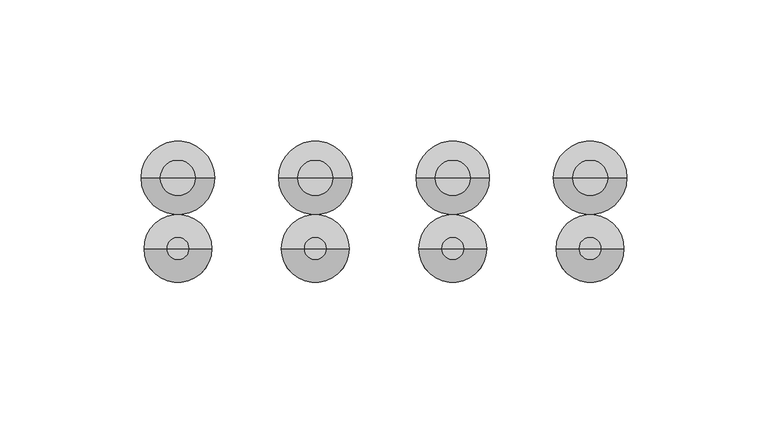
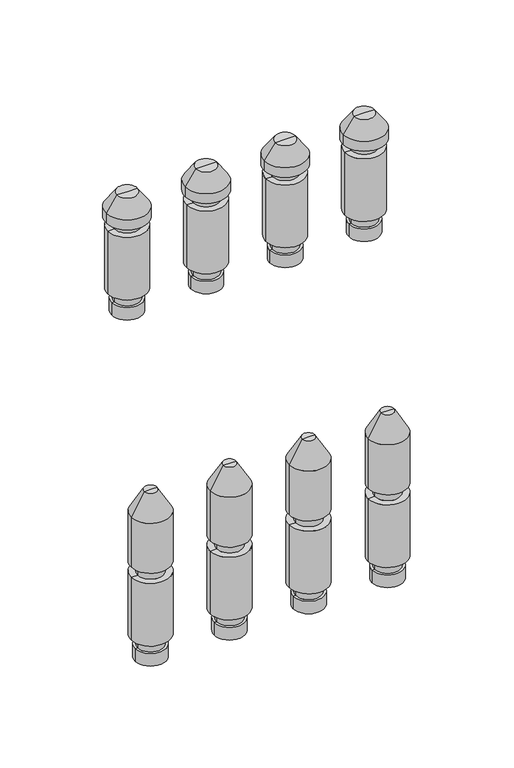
"""IFC4 building model written with IfcOpenShell, lengths in millimetres: valve geometry, PL AT_Manifold_FT-EV : 07 circuits."""

from ifc_helpers import new_model, si_unit, frame, origin, place, context, project, spatial, polyline, circle_curve, source, transform, mapped, element, save
from ifc_brep_helpers import plane_surface, cylinder_surface, revolved_surface, advanced_brep


def valve_ee085975(model_context):
    return source(origin(), model_context, "Body", "AdvancedBrep", [
        advanced_brep(
        [(275.8333333, 0.0, -35.11267), (294.8333333, 0.0, -35.11267), (285.3333333, 0.0, -35.11267), (275.8333333, 0.0, -27.0369646), (294.8333333, 0.0, -27.0369646), (277.3333333, 0.0, -27.0369646), (293.3333333, 0.0, -27.0369646), (277.3333333, 0.0, -20.330253), (293.3333333, 0.0, -20.330253), (273.3333333, 0.0, -20.330253), (297.3333333, 0.0, -20.330253), (273.3333333, 0.0, 20.330253), (297.3333333, 0.0, 20.330253), (277.3333333, 0.0, 20.330253), (293.3333333, 0.0, 20.330253), (277.3333333, 0.0, 27.0474786), (293.3333333, 0.0, 27.0474786), (273.3333333, 0.0, 27.0474786), (297.3333333, 0.0, 27.0474786), (273.3333333, 0.0, 59.4084325), (297.3333333, 0.0, 59.4084325), (281.3333333, 0.0, 73.264839), (289.3333333, 0.0, 73.264839), (285.3333333, 0.0, 73.264839)],
        [
            (0, 1, circle_curve(frame((285.3333333, 0.0, -35.11267), z_axis=(0.0, 0.0, -1.0), x_axis=(1.0, 0.0, 0.0)), 9.5)),
            (1, 2),
            (2, 0),
            (1, 0, circle_curve(frame((285.3333333, 0.0, -35.11267), z_axis=(0.0, 0.0, -1.0), x_axis=(1.0, 0.0, 0.0)), 9.5)),
            (3, 4, circle_curve(frame((285.3333333, 0.0, -27.0369646), z_axis=(0.0, 0.0, -1.0), x_axis=(1.0, 0.0, 0.0)), 9.5)),
            (4, 1),
            (0, 3),
            (4, 3, circle_curve(frame((285.3333333, 0.0, -27.0369646), z_axis=(0.0, 0.0, -1.0), x_axis=(1.0, 0.0, 0.0)), 9.5)),
            (5, 6, circle_curve(frame((285.3333333, 0.0, -27.0369646), z_axis=(0.0, 0.0, -1.0), x_axis=(1.0, 0.0, 0.0)), 8.0)),
            (6, 4),
            (3, 5),
            (6, 5, circle_curve(frame((285.3333333, 0.0, -27.0369646), z_axis=(0.0, 0.0, -1.0), x_axis=(1.0, 0.0, 0.0)), 8.0)),
            (7, 8, circle_curve(frame((285.3333333, 0.0, -20.330253), z_axis=(0.0, 0.0, -1.0), x_axis=(1.0, 0.0, 0.0)), 8.0)),
            (8, 6),
            (5, 7),
            (8, 7, circle_curve(frame((285.3333333, 0.0, -20.330253), z_axis=(0.0, 0.0, -1.0), x_axis=(1.0, 0.0, 0.0)), 8.0)),
            (9, 10, circle_curve(frame((285.3333333, 0.0, -20.330253), z_axis=(0.0, 0.0, -1.0), x_axis=(1.0, 0.0, 0.0)), 12.0)),
            (10, 8),
            (7, 9),
            (10, 9, circle_curve(frame((285.3333333, 0.0, -20.330253), z_axis=(0.0, 0.0, -1.0), x_axis=(1.0, 0.0, 0.0)), 12.0)),
            (11, 12, circle_curve(frame((285.3333333, 0.0, 20.330253), z_axis=(0.0, 0.0, -1.0), x_axis=(1.0, 0.0, 0.0)), 12.0)),
            (12, 10),
            (9, 11),
            (12, 11, circle_curve(frame((285.3333333, 0.0, 20.330253), z_axis=(0.0, 0.0, -1.0), x_axis=(1.0, 0.0, 0.0)), 12.0)),
            (13, 14, circle_curve(frame((285.3333333, 0.0, 20.330253), z_axis=(0.0, 0.0, -1.0), x_axis=(1.0, 0.0, 0.0)), 8.0)),
            (14, 12),
            (11, 13),
            (14, 13, circle_curve(frame((285.3333333, 0.0, 20.330253), z_axis=(0.0, 0.0, -1.0), x_axis=(1.0, 0.0, 0.0)), 8.0)),
            (15, 16, circle_curve(frame((285.3333333, 0.0, 27.0474786), z_axis=(0.0, 0.0, -1.0), x_axis=(1.0, 0.0, 0.0)), 8.0)),
            (16, 14),
            (13, 15),
            (16, 15, circle_curve(frame((285.3333333, 0.0, 27.0474786), z_axis=(0.0, 0.0, -1.0), x_axis=(1.0, 0.0, 0.0)), 8.0)),
            (17, 18, circle_curve(frame((285.3333333, 0.0, 27.0474786), z_axis=(0.0, 0.0, -1.0), x_axis=(1.0, 0.0, 0.0)), 12.0)),
            (18, 16),
            (15, 17),
            (18, 17, circle_curve(frame((285.3333333, 0.0, 27.0474786), z_axis=(0.0, 0.0, -1.0), x_axis=(1.0, 0.0, 0.0)), 12.0)),
            (19, 20, circle_curve(frame((285.3333333, 0.0, 59.4084325), z_axis=(0.0, 0.0, -1.0), x_axis=(1.0, 0.0, 0.0)), 12.0)),
            (20, 18),
            (17, 19),
            (20, 19, circle_curve(frame((285.3333333, 0.0, 59.4084325), z_axis=(0.0, 0.0, -1.0), x_axis=(1.0, 0.0, 0.0)), 12.0)),
            (21, 22, circle_curve(frame((285.3333333, 0.0, 73.264839), z_axis=(0.0, 0.0, -1.0), x_axis=(1.0, 0.0, 0.0)), 4.0)),
            (22, 20),
            (19, 21),
            (22, 21, circle_curve(frame((285.3333333, 0.0, 73.264839), z_axis=(0.0, 0.0, -1.0), x_axis=(1.0, 0.0, 0.0)), 4.0)),
            (23, 22),
            (21, 23),
        ],
        [
            plane_surface(frame((285.3333333, 0.0, -35.11267), z_axis=(0.0, 0.0, -1.0), x_axis=(1.0, 0.0, 0.0))),
            cylinder_surface(frame((285.3333333, 0.0, 58.264839), z_axis=(0.0, 0.0, 1.0), x_axis=(1.0, 0.0, 0.0)), 9.5),
            plane_surface(frame((285.3333333, 0.0, -27.0369646), z_axis=(0.0, 0.0, 1.0), x_axis=(1.0, 0.0, 0.0))),
            cylinder_surface(frame((285.3333333, 0.0, 58.264839), z_axis=(0.0, 0.0, 1.0), x_axis=(1.0, 0.0, 0.0)), 8.0),
            plane_surface(frame((285.3333333, 0.0, -20.330253), z_axis=(0.0, 0.0, -1.0), x_axis=(1.0, 0.0, 0.0))),
            cylinder_surface(frame((285.3333333, 0.0, 58.264839), z_axis=(0.0, 0.0, 1.0), x_axis=(1.0, 0.0, 0.0)), 12.0),
            plane_surface(frame((285.3333333, 0.0, 20.330253), z_axis=(0.0, 0.0, 1.0), x_axis=(1.0, 0.0, 0.0))),
            plane_surface(frame((285.3333333, 0.0, 27.0474786), z_axis=(0.0, 0.0, -1.0), x_axis=(1.0, 0.0, 0.0))),
            revolved_surface(polyline([(297.3333333, 0.0, 59.4084325), (289.3333333, 0.0, 73.264839)]), (285.3333333, 0.0, 58.264839), (0.0, 0.0, 1.0)),
            plane_surface(frame((285.3333333, 0.0, 73.264839), z_axis=(0.0, 0.0, 1.0), x_axis=(1.0, 0.0, 0.0))),
        ],
        [
            (0, [[1, 2, 3]]),
            (0, [[4, -3, -2]]),
            (1, [[5, 6, -1, 7]]),
            (1, [[8, -7, -4, -6]]),
            (2, [[9, 10, -5, 11]]),
            (2, [[12, -11, -8, -10]]),
            (3, [[13, 14, -9, 15]]),
            (3, [[16, -15, -12, -14]]),
            (4, [[17, 18, -13, 19]]),
            (4, [[20, -19, -16, -18]]),
            (5, [[21, 22, -17, 23]]),
            (5, [[24, -23, -20, -22]]),
            (6, [[25, 26, -21, 27]]),
            (6, [[28, -27, -24, -26]]),
            (3, [[29, 30, -25, 31]]),
            (3, [[32, -31, -28, -30]]),
            (7, [[33, 34, -29, 35]]),
            (7, [[36, -35, -32, -34]]),
            (5, [[37, 38, -33, 39]]),
            (5, [[40, -39, -36, -38]]),
            (8, [[41, 42, -37, 43]]),
            (8, [[44, -43, -40, -42]]),
            (9, [[45, -41, 46]]),
            (9, [[-46, -44, -45]]),
        ],
    ),
        advanced_brep(
        [(227.1666667, 0.0, -35.11267), (246.1666667, 0.0, -35.11267), (236.6666667, 0.0, -35.11267), (227.1666667, 0.0, -27.0369646), (246.1666667, 0.0, -27.0369646), (228.6666667, 0.0, -27.0369646), (244.6666667, 0.0, -27.0369646), (228.6666667, 0.0, -20.330253), (244.6666667, 0.0, -20.330253), (224.6666667, 0.0, -20.330253), (248.6666667, 0.0, -20.330253), (224.6666667, 0.0, 20.330253), (248.6666667, 0.0, 20.330253), (228.6666667, 0.0, 20.330253), (244.6666667, 0.0, 20.330253), (228.6666667, 0.0, 27.0474786), (244.6666667, 0.0, 27.0474786), (224.6666667, 0.0, 27.0474786), (248.6666667, 0.0, 27.0474786), (224.6666667, 0.0, 59.4084325), (248.6666667, 0.0, 59.4084325), (232.6666667, 0.0, 73.264839), (240.6666667, 0.0, 73.264839), (236.6666667, 0.0, 73.264839)],
        [
            (0, 1, circle_curve(frame((236.6666667, 0.0, -35.11267), z_axis=(0.0, 0.0, -1.0), x_axis=(1.0, 0.0, 0.0)), 9.5)),
            (1, 2),
            (2, 0),
            (1, 0, circle_curve(frame((236.6666667, 0.0, -35.11267), z_axis=(0.0, 0.0, -1.0), x_axis=(1.0, 0.0, 0.0)), 9.5)),
            (3, 4, circle_curve(frame((236.6666667, 0.0, -27.0369646), z_axis=(0.0, 0.0, -1.0), x_axis=(1.0, 0.0, 0.0)), 9.5)),
            (4, 1),
            (0, 3),
            (4, 3, circle_curve(frame((236.6666667, 0.0, -27.0369646), z_axis=(0.0, 0.0, -1.0), x_axis=(1.0, 0.0, 0.0)), 9.5)),
            (5, 6, circle_curve(frame((236.6666667, 0.0, -27.0369646), z_axis=(0.0, 0.0, -1.0), x_axis=(1.0, 0.0, 0.0)), 8.0)),
            (6, 4),
            (3, 5),
            (6, 5, circle_curve(frame((236.6666667, 0.0, -27.0369646), z_axis=(0.0, 0.0, -1.0), x_axis=(1.0, 0.0, 0.0)), 8.0)),
            (7, 8, circle_curve(frame((236.6666667, 0.0, -20.330253), z_axis=(0.0, 0.0, -1.0), x_axis=(1.0, 0.0, 0.0)), 8.0)),
            (8, 6),
            (5, 7),
            (8, 7, circle_curve(frame((236.6666667, 0.0, -20.330253), z_axis=(0.0, 0.0, -1.0), x_axis=(1.0, 0.0, 0.0)), 8.0)),
            (9, 10, circle_curve(frame((236.6666667, 0.0, -20.330253), z_axis=(0.0, 0.0, -1.0), x_axis=(1.0, 0.0, 0.0)), 12.0)),
            (10, 8),
            (7, 9),
            (10, 9, circle_curve(frame((236.6666667, 0.0, -20.330253), z_axis=(0.0, 0.0, -1.0), x_axis=(1.0, 0.0, 0.0)), 12.0)),
            (11, 12, circle_curve(frame((236.6666667, 0.0, 20.330253), z_axis=(0.0, 0.0, -1.0), x_axis=(1.0, 0.0, 0.0)), 12.0)),
            (12, 10),
            (9, 11),
            (12, 11, circle_curve(frame((236.6666667, 0.0, 20.330253), z_axis=(0.0, 0.0, -1.0), x_axis=(1.0, 0.0, 0.0)), 12.0)),
            (13, 14, circle_curve(frame((236.6666667, 0.0, 20.330253), z_axis=(0.0, 0.0, -1.0), x_axis=(1.0, 0.0, 0.0)), 8.0)),
            (14, 12),
            (11, 13),
            (14, 13, circle_curve(frame((236.6666667, 0.0, 20.330253), z_axis=(0.0, 0.0, -1.0), x_axis=(1.0, 0.0, 0.0)), 8.0)),
            (15, 16, circle_curve(frame((236.6666667, 0.0, 27.0474786), z_axis=(0.0, 0.0, -1.0), x_axis=(1.0, 0.0, 0.0)), 8.0)),
            (16, 14),
            (13, 15),
            (16, 15, circle_curve(frame((236.6666667, 0.0, 27.0474786), z_axis=(0.0, 0.0, -1.0), x_axis=(1.0, 0.0, 0.0)), 8.0)),
            (17, 18, circle_curve(frame((236.6666667, 0.0, 27.0474786), z_axis=(0.0, 0.0, -1.0), x_axis=(1.0, 0.0, 0.0)), 12.0)),
            (18, 16),
            (15, 17),
            (18, 17, circle_curve(frame((236.6666667, 0.0, 27.0474786), z_axis=(0.0, 0.0, -1.0), x_axis=(1.0, 0.0, 0.0)), 12.0)),
            (19, 20, circle_curve(frame((236.6666667, 0.0, 59.4084325), z_axis=(0.0, 0.0, -1.0), x_axis=(1.0, 0.0, 0.0)), 12.0)),
            (20, 18),
            (17, 19),
            (20, 19, circle_curve(frame((236.6666667, 0.0, 59.4084325), z_axis=(0.0, 0.0, -1.0), x_axis=(1.0, 0.0, 0.0)), 12.0)),
            (21, 22, circle_curve(frame((236.6666667, 0.0, 73.264839), z_axis=(0.0, 0.0, -1.0), x_axis=(1.0, 0.0, 0.0)), 4.0)),
            (22, 20),
            (19, 21),
            (22, 21, circle_curve(frame((236.6666667, 0.0, 73.264839), z_axis=(0.0, 0.0, -1.0), x_axis=(1.0, 0.0, 0.0)), 4.0)),
            (23, 22),
            (21, 23),
        ],
        [
            plane_surface(frame((236.6666667, 0.0, -35.11267), z_axis=(0.0, 0.0, -1.0), x_axis=(1.0, 0.0, 0.0))),
            cylinder_surface(frame((236.6666667, 0.0, 58.264839), z_axis=(0.0, 0.0, 1.0), x_axis=(1.0, 0.0, 0.0)), 9.5),
            plane_surface(frame((236.6666667, 0.0, -27.0369646), z_axis=(0.0, 0.0, 1.0), x_axis=(1.0, 0.0, 0.0))),
            cylinder_surface(frame((236.6666667, 0.0, 58.264839), z_axis=(0.0, 0.0, 1.0), x_axis=(1.0, 0.0, 0.0)), 8.0),
            plane_surface(frame((236.6666667, 0.0, -20.330253), z_axis=(0.0, 0.0, -1.0), x_axis=(1.0, 0.0, 0.0))),
            cylinder_surface(frame((236.6666667, 0.0, 58.264839), z_axis=(0.0, 0.0, 1.0), x_axis=(1.0, 0.0, 0.0)), 12.0),
            plane_surface(frame((236.6666667, 0.0, 20.330253), z_axis=(0.0, 0.0, 1.0), x_axis=(1.0, 0.0, 0.0))),
            plane_surface(frame((236.6666667, 0.0, 27.0474786), z_axis=(0.0, 0.0, -1.0), x_axis=(1.0, 0.0, 0.0))),
            revolved_surface(polyline([(248.6666667, 0.0, 59.4084325), (240.6666667, 0.0, 73.264839)]), (236.6666667, 0.0, 58.264839), (0.0, 0.0, 1.0)),
            plane_surface(frame((236.6666667, 0.0, 73.264839), z_axis=(0.0, 0.0, 1.0), x_axis=(1.0, 0.0, 0.0))),
        ],
        [
            (0, [[1, 2, 3]]),
            (0, [[4, -3, -2]]),
            (1, [[5, 6, -1, 7]]),
            (1, [[8, -7, -4, -6]]),
            (2, [[9, 10, -5, 11]]),
            (2, [[12, -11, -8, -10]]),
            (3, [[13, 14, -9, 15]]),
            (3, [[16, -15, -12, -14]]),
            (4, [[17, 18, -13, 19]]),
            (4, [[20, -19, -16, -18]]),
            (5, [[21, 22, -17, 23]]),
            (5, [[24, -23, -20, -22]]),
            (6, [[25, 26, -21, 27]]),
            (6, [[28, -27, -24, -26]]),
            (3, [[29, 30, -25, 31]]),
            (3, [[32, -31, -28, -30]]),
            (7, [[33, 34, -29, 35]]),
            (7, [[36, -35, -32, -34]]),
            (5, [[37, 38, -33, 39]]),
            (5, [[40, -39, -36, -38]]),
            (8, [[41, 42, -37, 43]]),
            (8, [[44, -43, -40, -42]]),
            (9, [[45, -41, 46]]),
            (9, [[-46, -44, -45]]),
        ],
    ),
        advanced_brep(
        [(178.5, 0.0, -35.11267), (197.5, 0.0, -35.11267), (188.0, 0.0, -35.11267), (178.5, 0.0, -27.0369646), (197.5, 0.0, -27.0369646), (180.0, 0.0, -27.0369646), (196.0, 0.0, -27.0369646), (180.0, 0.0, -20.330253), (196.0, 0.0, -20.330253), (176.0, 0.0, -20.330253), (200.0, 0.0, -20.330253), (176.0, 0.0, 20.330253), (200.0, 0.0, 20.330253), (180.0, 0.0, 20.330253), (196.0, 0.0, 20.330253), (180.0, 0.0, 27.0474786), (196.0, 0.0, 27.0474786), (176.0, 0.0, 27.0474786), (200.0, 0.0, 27.0474786), (176.0, 0.0, 59.4084325), (200.0, 0.0, 59.4084325), (184.0, 0.0, 73.264839), (192.0, 0.0, 73.264839), (188.0, 0.0, 73.264839)],
        [
            (0, 1, circle_curve(frame((188.0, 0.0, -35.11267), z_axis=(0.0, 0.0, -1.0), x_axis=(1.0, 0.0, 0.0)), 9.5)),
            (1, 2),
            (2, 0),
            (1, 0, circle_curve(frame((188.0, 0.0, -35.11267), z_axis=(0.0, 0.0, -1.0), x_axis=(1.0, 0.0, 0.0)), 9.5)),
            (3, 4, circle_curve(frame((188.0, 0.0, -27.0369646), z_axis=(0.0, 0.0, -1.0), x_axis=(1.0, 0.0, 0.0)), 9.5)),
            (4, 1),
            (0, 3),
            (4, 3, circle_curve(frame((188.0, 0.0, -27.0369646), z_axis=(0.0, 0.0, -1.0), x_axis=(1.0, 0.0, 0.0)), 9.5)),
            (5, 6, circle_curve(frame((188.0, 0.0, -27.0369646), z_axis=(0.0, 0.0, -1.0), x_axis=(1.0, 0.0, 0.0)), 8.0)),
            (6, 4),
            (3, 5),
            (6, 5, circle_curve(frame((188.0, 0.0, -27.0369646), z_axis=(0.0, 0.0, -1.0), x_axis=(1.0, 0.0, 0.0)), 8.0)),
            (7, 8, circle_curve(frame((188.0, 0.0, -20.330253), z_axis=(0.0, 0.0, -1.0), x_axis=(1.0, 0.0, 0.0)), 8.0)),
            (8, 6),
            (5, 7),
            (8, 7, circle_curve(frame((188.0, 0.0, -20.330253), z_axis=(0.0, 0.0, -1.0), x_axis=(1.0, 0.0, 0.0)), 8.0)),
            (9, 10, circle_curve(frame((188.0, 0.0, -20.330253), z_axis=(0.0, 0.0, -1.0), x_axis=(1.0, 0.0, 0.0)), 12.0)),
            (10, 8),
            (7, 9),
            (10, 9, circle_curve(frame((188.0, 0.0, -20.330253), z_axis=(0.0, 0.0, -1.0), x_axis=(1.0, 0.0, 0.0)), 12.0)),
            (11, 12, circle_curve(frame((188.0, 0.0, 20.330253), z_axis=(0.0, 0.0, -1.0), x_axis=(1.0, 0.0, 0.0)), 12.0)),
            (12, 10),
            (9, 11),
            (12, 11, circle_curve(frame((188.0, 0.0, 20.330253), z_axis=(0.0, 0.0, -1.0), x_axis=(1.0, 0.0, 0.0)), 12.0)),
            (13, 14, circle_curve(frame((188.0, 0.0, 20.330253), z_axis=(0.0, 0.0, -1.0), x_axis=(1.0, 0.0, 0.0)), 8.0)),
            (14, 12),
            (11, 13),
            (14, 13, circle_curve(frame((188.0, 0.0, 20.330253), z_axis=(0.0, 0.0, -1.0), x_axis=(1.0, 0.0, 0.0)), 8.0)),
            (15, 16, circle_curve(frame((188.0, 0.0, 27.0474786), z_axis=(0.0, 0.0, -1.0), x_axis=(1.0, 0.0, 0.0)), 8.0)),
            (16, 14),
            (13, 15),
            (16, 15, circle_curve(frame((188.0, 0.0, 27.0474786), z_axis=(0.0, 0.0, -1.0), x_axis=(1.0, 0.0, 0.0)), 8.0)),
            (17, 18, circle_curve(frame((188.0, 0.0, 27.0474786), z_axis=(0.0, 0.0, -1.0), x_axis=(1.0, 0.0, 0.0)), 12.0)),
            (18, 16),
            (15, 17),
            (18, 17, circle_curve(frame((188.0, 0.0, 27.0474786), z_axis=(0.0, 0.0, -1.0), x_axis=(1.0, 0.0, 0.0)), 12.0)),
            (19, 20, circle_curve(frame((188.0, 0.0, 59.4084325), z_axis=(0.0, 0.0, -1.0), x_axis=(1.0, 0.0, 0.0)), 12.0)),
            (20, 18),
            (17, 19),
            (20, 19, circle_curve(frame((188.0, 0.0, 59.4084325), z_axis=(0.0, 0.0, -1.0), x_axis=(1.0, 0.0, 0.0)), 12.0)),
            (21, 22, circle_curve(frame((188.0, 0.0, 73.264839), z_axis=(0.0, 0.0, -1.0), x_axis=(1.0, 0.0, 0.0)), 4.0)),
            (22, 20),
            (19, 21),
            (22, 21, circle_curve(frame((188.0, 0.0, 73.264839), z_axis=(0.0, 0.0, -1.0), x_axis=(1.0, 0.0, 0.0)), 4.0)),
            (23, 22),
            (21, 23),
        ],
        [
            plane_surface(frame((188.0, 0.0, -35.11267), z_axis=(0.0, 0.0, -1.0), x_axis=(1.0, 0.0, 0.0))),
            cylinder_surface(frame((188.0, 0.0, 58.264839), z_axis=(0.0, 0.0, 1.0), x_axis=(1.0, 0.0, 0.0)), 9.5),
            plane_surface(frame((188.0, 0.0, -27.0369646), z_axis=(0.0, 0.0, 1.0), x_axis=(1.0, 0.0, 0.0))),
            cylinder_surface(frame((188.0, 0.0, 58.264839), z_axis=(0.0, 0.0, 1.0), x_axis=(1.0, 0.0, 0.0)), 8.0),
            plane_surface(frame((188.0, 0.0, -20.330253), z_axis=(0.0, 0.0, -1.0), x_axis=(1.0, 0.0, 0.0))),
            cylinder_surface(frame((188.0, 0.0, 58.264839), z_axis=(0.0, 0.0, 1.0), x_axis=(1.0, 0.0, 0.0)), 12.0),
            plane_surface(frame((188.0, 0.0, 20.330253), z_axis=(0.0, 0.0, 1.0), x_axis=(1.0, 0.0, 0.0))),
            plane_surface(frame((188.0, 0.0, 27.0474786), z_axis=(0.0, 0.0, -1.0), x_axis=(1.0, 0.0, 0.0))),
            revolved_surface(polyline([(200.0, 0.0, 59.4084325), (192.0, 0.0, 73.264839)]), (188.0, 0.0, 58.264839), (0.0, 0.0, 1.0)),
            plane_surface(frame((188.0, 0.0, 73.264839), z_axis=(0.0, 0.0, 1.0), x_axis=(1.0, 0.0, 0.0))),
        ],
        [
            (0, [[1, 2, 3]]),
            (0, [[4, -3, -2]]),
            (1, [[5, 6, -1, 7]]),
            (1, [[8, -7, -4, -6]]),
            (2, [[9, 10, -5, 11]]),
            (2, [[12, -11, -8, -10]]),
            (3, [[13, 14, -9, 15]]),
            (3, [[16, -15, -12, -14]]),
            (4, [[17, 18, -13, 19]]),
            (4, [[20, -19, -16, -18]]),
            (5, [[21, 22, -17, 23]]),
            (5, [[24, -23, -20, -22]]),
            (6, [[25, 26, -21, 27]]),
            (6, [[28, -27, -24, -26]]),
            (3, [[29, 30, -25, 31]]),
            (3, [[32, -31, -28, -30]]),
            (7, [[33, 34, -29, 35]]),
            (7, [[36, -35, -32, -34]]),
            (5, [[37, 38, -33, 39]]),
            (5, [[40, -39, -36, -38]]),
            (8, [[41, 42, -37, 43]]),
            (8, [[44, -43, -40, -42]]),
            (9, [[45, -41, 46]]),
            (9, [[-46, -44, -45]]),
        ],
    ),
        advanced_brep(
        [(129.8333333, 0.0, -35.11267), (148.8333333, 0.0, -35.11267), (139.3333333, 0.0, -35.11267), (129.8333333, 0.0, -27.0369646), (148.8333333, 0.0, -27.0369646), (131.3333333, 0.0, -27.0369646), (147.3333333, 0.0, -27.0369646), (131.3333333, 0.0, -20.330253), (147.3333333, 0.0, -20.330253), (127.3333333, 0.0, -20.330253), (151.3333333, 0.0, -20.330253), (127.3333333, 0.0, 20.330253), (151.3333333, 0.0, 20.330253), (131.3333333, 0.0, 20.330253), (147.3333333, 0.0, 20.330253), (131.3333333, 0.0, 27.0474786), (147.3333333, 0.0, 27.0474786), (127.3333333, 0.0, 27.0474786), (151.3333333, 0.0, 27.0474786), (127.3333333, 0.0, 59.4084325), (151.3333333, 0.0, 59.4084325), (135.3333333, 0.0, 73.264839), (143.3333333, 0.0, 73.264839), (139.3333333, 0.0, 73.264839)],
        [
            (0, 1, circle_curve(frame((139.3333333, 0.0, -35.11267), z_axis=(0.0, 0.0, -1.0), x_axis=(1.0, 0.0, 0.0)), 9.5)),
            (1, 2),
            (2, 0),
            (1, 0, circle_curve(frame((139.3333333, 0.0, -35.11267), z_axis=(0.0, 0.0, -1.0), x_axis=(1.0, 0.0, 0.0)), 9.5)),
            (3, 4, circle_curve(frame((139.3333333, 0.0, -27.0369646), z_axis=(0.0, 0.0, -1.0), x_axis=(1.0, 0.0, 0.0)), 9.5)),
            (4, 1),
            (0, 3),
            (4, 3, circle_curve(frame((139.3333333, 0.0, -27.0369646), z_axis=(0.0, 0.0, -1.0), x_axis=(1.0, 0.0, 0.0)), 9.5)),
            (5, 6, circle_curve(frame((139.3333333, 0.0, -27.0369646), z_axis=(0.0, 0.0, -1.0), x_axis=(1.0, 0.0, 0.0)), 8.0)),
            (6, 4),
            (3, 5),
            (6, 5, circle_curve(frame((139.3333333, 0.0, -27.0369646), z_axis=(0.0, 0.0, -1.0), x_axis=(1.0, 0.0, 0.0)), 8.0)),
            (7, 8, circle_curve(frame((139.3333333, 0.0, -20.330253), z_axis=(0.0, 0.0, -1.0), x_axis=(1.0, 0.0, 0.0)), 8.0)),
            (8, 6),
            (5, 7),
            (8, 7, circle_curve(frame((139.3333333, 0.0, -20.330253), z_axis=(0.0, 0.0, -1.0), x_axis=(1.0, 0.0, 0.0)), 8.0)),
            (9, 10, circle_curve(frame((139.3333333, 0.0, -20.330253), z_axis=(0.0, 0.0, -1.0), x_axis=(1.0, 0.0, 0.0)), 12.0)),
            (10, 8),
            (7, 9),
            (10, 9, circle_curve(frame((139.3333333, 0.0, -20.330253), z_axis=(0.0, 0.0, -1.0), x_axis=(1.0, 0.0, 0.0)), 12.0)),
            (11, 12, circle_curve(frame((139.3333333, 0.0, 20.330253), z_axis=(0.0, 0.0, -1.0), x_axis=(1.0, 0.0, 0.0)), 12.0)),
            (12, 10),
            (9, 11),
            (12, 11, circle_curve(frame((139.3333333, 0.0, 20.330253), z_axis=(0.0, 0.0, -1.0), x_axis=(1.0, 0.0, 0.0)), 12.0)),
            (13, 14, circle_curve(frame((139.3333333, 0.0, 20.330253), z_axis=(0.0, 0.0, -1.0), x_axis=(1.0, 0.0, 0.0)), 8.0)),
            (14, 12),
            (11, 13),
            (14, 13, circle_curve(frame((139.3333333, 0.0, 20.330253), z_axis=(0.0, 0.0, -1.0), x_axis=(1.0, 0.0, 0.0)), 8.0)),
            (15, 16, circle_curve(frame((139.3333333, 0.0, 27.0474786), z_axis=(0.0, 0.0, -1.0), x_axis=(1.0, 0.0, 0.0)), 8.0)),
            (16, 14),
            (13, 15),
            (16, 15, circle_curve(frame((139.3333333, 0.0, 27.0474786), z_axis=(0.0, 0.0, -1.0), x_axis=(1.0, 0.0, 0.0)), 8.0)),
            (17, 18, circle_curve(frame((139.3333333, 0.0, 27.0474786), z_axis=(0.0, 0.0, -1.0), x_axis=(1.0, 0.0, 0.0)), 12.0)),
            (18, 16),
            (15, 17),
            (18, 17, circle_curve(frame((139.3333333, 0.0, 27.0474786), z_axis=(0.0, 0.0, -1.0), x_axis=(1.0, 0.0, 0.0)), 12.0)),
            (19, 20, circle_curve(frame((139.3333333, 0.0, 59.4084325), z_axis=(0.0, 0.0, -1.0), x_axis=(1.0, 0.0, 0.0)), 12.0)),
            (20, 18),
            (17, 19),
            (20, 19, circle_curve(frame((139.3333333, 0.0, 59.4084325), z_axis=(0.0, 0.0, -1.0), x_axis=(1.0, 0.0, 0.0)), 12.0)),
            (21, 22, circle_curve(frame((139.3333333, 0.0, 73.264839), z_axis=(0.0, 0.0, -1.0), x_axis=(1.0, 0.0, 0.0)), 4.0)),
            (22, 20),
            (19, 21),
            (22, 21, circle_curve(frame((139.3333333, 0.0, 73.264839), z_axis=(0.0, 0.0, -1.0), x_axis=(1.0, 0.0, 0.0)), 4.0)),
            (23, 22),
            (21, 23),
        ],
        [
            plane_surface(frame((139.3333333, 0.0, -35.11267), z_axis=(0.0, 0.0, -1.0), x_axis=(1.0, 0.0, 0.0))),
            cylinder_surface(frame((139.3333333, 0.0, 58.264839), z_axis=(0.0, 0.0, 1.0), x_axis=(1.0, 0.0, 0.0)), 9.5),
            plane_surface(frame((139.3333333, 0.0, -27.0369646), z_axis=(0.0, 0.0, 1.0), x_axis=(1.0, 0.0, 0.0))),
            cylinder_surface(frame((139.3333333, 0.0, 58.264839), z_axis=(0.0, 0.0, 1.0), x_axis=(1.0, 0.0, 0.0)), 8.0),
            plane_surface(frame((139.3333333, 0.0, -20.330253), z_axis=(0.0, 0.0, -1.0), x_axis=(1.0, 0.0, 0.0))),
            cylinder_surface(frame((139.3333333, 0.0, 58.264839), z_axis=(0.0, 0.0, 1.0), x_axis=(1.0, 0.0, 0.0)), 12.0),
            plane_surface(frame((139.3333333, 0.0, 20.330253), z_axis=(0.0, 0.0, 1.0), x_axis=(1.0, 0.0, 0.0))),
            plane_surface(frame((139.3333333, 0.0, 27.0474786), z_axis=(0.0, 0.0, -1.0), x_axis=(1.0, 0.0, 0.0))),
            revolved_surface(polyline([(151.3333333, 0.0, 59.4084325), (143.3333333, 0.0, 73.264839)]), (139.3333333, 0.0, 58.264839), (0.0, 0.0, 1.0)),
            plane_surface(frame((139.3333333, 0.0, 73.264839), z_axis=(0.0, 0.0, 1.0), x_axis=(1.0, 0.0, 0.0))),
        ],
        [
            (0, [[1, 2, 3]]),
            (0, [[4, -3, -2]]),
            (1, [[5, 6, -1, 7]]),
            (1, [[8, -7, -4, -6]]),
            (2, [[9, 10, -5, 11]]),
            (2, [[12, -11, -8, -10]]),
            (3, [[13, 14, -9, 15]]),
            (3, [[16, -15, -12, -14]]),
            (4, [[17, 18, -13, 19]]),
            (4, [[20, -19, -16, -18]]),
            (5, [[21, 22, -17, 23]]),
            (5, [[24, -23, -20, -22]]),
            (6, [[25, 26, -21, 27]]),
            (6, [[28, -27, -24, -26]]),
            (3, [[29, 30, -25, 31]]),
            (3, [[32, -31, -28, -30]]),
            (7, [[33, 34, -29, 35]]),
            (7, [[36, -35, -32, -34]]),
            (5, [[37, 38, -33, 39]]),
            (5, [[40, -39, -36, -38]]),
            (8, [[41, 42, -37, 43]]),
            (8, [[44, -43, -40, -42]]),
            (9, [[45, -41, 46]]),
            (9, [[-46, -44, -45]]),
        ],
    ),
        advanced_brep(
        [(275.8333333, 25.0, 174.88733), (294.8333333, 25.0, 174.88733), (285.3333333, 25.0, 174.88733), (275.8333333, 25.0, 182.9630354), (294.8333333, 25.0, 182.9630354), (277.3333333, 25.0, 182.9630354), (293.3333333, 25.0, 182.9630354), (277.3333333, 25.0, 189.669747), (293.3333333, 25.0, 189.669747), (273.3333333, 25.0, 189.669747), (297.3333333, 25.0, 189.669747), (273.3333333, 25.0, 230.330253), (297.3333333, 25.0, 230.330253), (277.3333333, 25.0, 230.330253), (293.3333333, 25.0, 230.330253), (277.3333333, 25.0, 236.0474786), (293.3333333, 25.0, 236.0474786), (272.3333333, 25.0, 236.0474786), (298.3333333, 25.0, 236.0474786), (272.3333333, 25.0, 242.337955), (298.3333333, 25.0, 242.337955), (278.9885112, 25.0, 251.842534), (291.6781555, 25.0, 251.842534), (285.3333333, 25.0, 251.842534)],
        [
            (0, 1, circle_curve(frame((285.3333333, 25.0, 174.88733), z_axis=(0.0, 0.0, -1.0), x_axis=(1.0, 0.0, 0.0)), 9.5)),
            (1, 2),
            (2, 0),
            (1, 0, circle_curve(frame((285.3333333, 25.0, 174.88733), z_axis=(0.0, 0.0, -1.0), x_axis=(1.0, 0.0, 0.0)), 9.5)),
            (3, 4, circle_curve(frame((285.3333333, 25.0, 182.9630354), z_axis=(0.0, 0.0, -1.0), x_axis=(1.0, 0.0, 0.0)), 9.5)),
            (4, 1),
            (0, 3),
            (4, 3, circle_curve(frame((285.3333333, 25.0, 182.9630354), z_axis=(0.0, 0.0, -1.0), x_axis=(1.0, 0.0, 0.0)), 9.5)),
            (5, 6, circle_curve(frame((285.3333333, 25.0, 182.9630354), z_axis=(0.0, 0.0, -1.0), x_axis=(1.0, 0.0, 0.0)), 8.0)),
            (6, 4),
            (3, 5),
            (6, 5, circle_curve(frame((285.3333333, 25.0, 182.9630354), z_axis=(0.0, 0.0, -1.0), x_axis=(1.0, 0.0, 0.0)), 8.0)),
            (7, 8, circle_curve(frame((285.3333333, 25.0, 189.669747), z_axis=(0.0, 0.0, -1.0), x_axis=(1.0, 0.0, 0.0)), 8.0)),
            (8, 6),
            (5, 7),
            (8, 7, circle_curve(frame((285.3333333, 25.0, 189.669747), z_axis=(0.0, 0.0, -1.0), x_axis=(1.0, 0.0, 0.0)), 8.0)),
            (9, 10, circle_curve(frame((285.3333333, 25.0, 189.669747), z_axis=(0.0, 0.0, -1.0), x_axis=(1.0, 0.0, 0.0)), 12.0)),
            (10, 8),
            (7, 9),
            (10, 9, circle_curve(frame((285.3333333, 25.0, 189.669747), z_axis=(0.0, 0.0, -1.0), x_axis=(1.0, 0.0, 0.0)), 12.0)),
            (11, 12, circle_curve(frame((285.3333333, 25.0, 230.330253), z_axis=(0.0, 0.0, -1.0), x_axis=(1.0, 0.0, 0.0)), 12.0)),
            (12, 10),
            (9, 11),
            (12, 11, circle_curve(frame((285.3333333, 25.0, 230.330253), z_axis=(0.0, 0.0, -1.0), x_axis=(1.0, 0.0, 0.0)), 12.0)),
            (13, 14, circle_curve(frame((285.3333333, 25.0, 230.330253), z_axis=(0.0, 0.0, -1.0), x_axis=(1.0, 0.0, 0.0)), 8.0)),
            (14, 12),
            (11, 13),
            (14, 13, circle_curve(frame((285.3333333, 25.0, 230.330253), z_axis=(0.0, 0.0, -1.0), x_axis=(1.0, 0.0, 0.0)), 8.0)),
            (15, 16, circle_curve(frame((285.3333333, 25.0, 236.0474786), z_axis=(0.0, 0.0, -1.0), x_axis=(1.0, 0.0, 0.0)), 8.0)),
            (16, 14),
            (13, 15),
            (16, 15, circle_curve(frame((285.3333333, 25.0, 236.0474786), z_axis=(0.0, 0.0, -1.0), x_axis=(1.0, 0.0, 0.0)), 8.0)),
            (17, 18, circle_curve(frame((285.3333333, 25.0, 236.0474786), z_axis=(0.0, 0.0, -1.0), x_axis=(1.0, 0.0, 0.0)), 13.0)),
            (18, 16),
            (15, 17),
            (18, 17, circle_curve(frame((285.3333333, 25.0, 236.0474786), z_axis=(0.0, 0.0, -1.0), x_axis=(1.0, 0.0, 0.0)), 13.0)),
            (19, 20, circle_curve(frame((285.3333333, 25.0, 242.337955), z_axis=(0.0, 0.0, -1.0), x_axis=(1.0, 0.0, 0.0)), 13.0)),
            (20, 18),
            (17, 19),
            (20, 19, circle_curve(frame((285.3333333, 25.0, 242.337955), z_axis=(0.0, 0.0, -1.0), x_axis=(1.0, 0.0, 0.0)), 13.0)),
            (21, 22, circle_curve(frame((285.3333333, 25.0, 251.842534), z_axis=(0.0, 0.0, -1.0), x_axis=(1.0, 0.0, 0.0)), 6.3448221)),
            (22, 20),
            (19, 21),
            (22, 21, circle_curve(frame((285.3333333, 25.0, 251.842534), z_axis=(0.0, 0.0, -1.0), x_axis=(1.0, 0.0, 0.0)), 6.3448221)),
            (23, 22),
            (21, 23),
        ],
        [
            plane_surface(frame((285.3333333, 25.0, 174.88733), z_axis=(0.0, 0.0, -1.0), x_axis=(1.0, 0.0, 0.0))),
            cylinder_surface(frame((285.3333333, 25.0, 247.7026565), z_axis=(0.0, 0.0, 1.0), x_axis=(1.0, 0.0, 0.0)), 9.5),
            plane_surface(frame((285.3333333, 25.0, 182.9630354), z_axis=(0.0, 0.0, 1.0), x_axis=(1.0, 0.0, 0.0))),
            cylinder_surface(frame((285.3333333, 25.0, 247.7026565), z_axis=(0.0, 0.0, 1.0), x_axis=(1.0, 0.0, 0.0)), 8.0),
            plane_surface(frame((285.3333333, 25.0, 189.669747), z_axis=(0.0, 0.0, -1.0), x_axis=(1.0, 0.0, 0.0))),
            cylinder_surface(frame((285.3333333, 25.0, 247.7026565), z_axis=(0.0, 0.0, 1.0), x_axis=(1.0, 0.0, 0.0)), 12.0),
            plane_surface(frame((285.3333333, 25.0, 230.330253), z_axis=(0.0, 0.0, 1.0), x_axis=(1.0, 0.0, 0.0))),
            plane_surface(frame((285.3333333, 25.0, 236.0474786), z_axis=(0.0, 0.0, -1.0), x_axis=(1.0, 0.0, 0.0))),
            cylinder_surface(frame((285.3333333, 25.0, 247.7026565), z_axis=(0.0, 0.0, 1.0), x_axis=(1.0, 0.0, 0.0)), 13.0),
            revolved_surface(polyline([(298.3333333, 25.0, 242.337955), (291.6781555, 25.0, 251.842534)]), (285.3333333, 25.0, 247.7026565), (0.0, 0.0, 1.0)),
            plane_surface(frame((285.3333333, 25.0, 251.842534), z_axis=(0.0, 0.0, 1.0), x_axis=(1.0, 0.0, 0.0))),
        ],
        [
            (0, [[1, 2, 3]]),
            (0, [[4, -3, -2]]),
            (1, [[5, 6, -1, 7]]),
            (1, [[8, -7, -4, -6]]),
            (2, [[9, 10, -5, 11]]),
            (2, [[12, -11, -8, -10]]),
            (3, [[13, 14, -9, 15]]),
            (3, [[16, -15, -12, -14]]),
            (4, [[17, 18, -13, 19]]),
            (4, [[20, -19, -16, -18]]),
            (5, [[21, 22, -17, 23]]),
            (5, [[24, -23, -20, -22]]),
            (6, [[25, 26, -21, 27]]),
            (6, [[28, -27, -24, -26]]),
            (3, [[29, 30, -25, 31]]),
            (3, [[32, -31, -28, -30]]),
            (7, [[33, 34, -29, 35]]),
            (7, [[36, -35, -32, -34]]),
            (8, [[37, 38, -33, 39]]),
            (8, [[40, -39, -36, -38]]),
            (9, [[41, 42, -37, 43]]),
            (9, [[44, -43, -40, -42]]),
            (10, [[45, -41, 46]]),
            (10, [[-46, -44, -45]]),
        ],
    ),
        advanced_brep(
        [(227.1666667, 25.0, 174.88733), (246.1666667, 25.0, 174.88733), (236.6666667, 25.0, 174.88733), (227.1666667, 25.0, 182.9630354), (246.1666667, 25.0, 182.9630354), (228.6666667, 25.0, 182.9630354), (244.6666667, 25.0, 182.9630354), (228.6666667, 25.0, 189.669747), (244.6666667, 25.0, 189.669747), (224.6666667, 25.0, 189.669747), (248.6666667, 25.0, 189.669747), (224.6666667, 25.0, 230.330253), (248.6666667, 25.0, 230.330253), (228.6666667, 25.0, 230.330253), (244.6666667, 25.0, 230.330253), (228.6666667, 25.0, 236.0474786), (244.6666667, 25.0, 236.0474786), (223.6666667, 25.0, 236.0474786), (249.6666667, 25.0, 236.0474786), (223.6666667, 25.0, 242.337955), (249.6666667, 25.0, 242.337955), (230.3218445, 25.0, 251.842534), (243.0114888, 25.0, 251.842534), (236.6666667, 25.0, 251.842534)],
        [
            (0, 1, circle_curve(frame((236.6666667, 25.0, 174.88733), z_axis=(0.0, 0.0, -1.0), x_axis=(1.0, 0.0, 0.0)), 9.5)),
            (1, 2),
            (2, 0),
            (1, 0, circle_curve(frame((236.6666667, 25.0, 174.88733), z_axis=(0.0, 0.0, -1.0), x_axis=(1.0, 0.0, 0.0)), 9.5)),
            (3, 4, circle_curve(frame((236.6666667, 25.0, 182.9630354), z_axis=(0.0, 0.0, -1.0), x_axis=(1.0, 0.0, 0.0)), 9.5)),
            (4, 1),
            (0, 3),
            (4, 3, circle_curve(frame((236.6666667, 25.0, 182.9630354), z_axis=(0.0, 0.0, -1.0), x_axis=(1.0, 0.0, 0.0)), 9.5)),
            (5, 6, circle_curve(frame((236.6666667, 25.0, 182.9630354), z_axis=(0.0, 0.0, -1.0), x_axis=(1.0, 0.0, 0.0)), 8.0)),
            (6, 4),
            (3, 5),
            (6, 5, circle_curve(frame((236.6666667, 25.0, 182.9630354), z_axis=(0.0, 0.0, -1.0), x_axis=(1.0, 0.0, 0.0)), 8.0)),
            (7, 8, circle_curve(frame((236.6666667, 25.0, 189.669747), z_axis=(0.0, 0.0, -1.0), x_axis=(1.0, 0.0, 0.0)), 8.0)),
            (8, 6),
            (5, 7),
            (8, 7, circle_curve(frame((236.6666667, 25.0, 189.669747), z_axis=(0.0, 0.0, -1.0), x_axis=(1.0, 0.0, 0.0)), 8.0)),
            (9, 10, circle_curve(frame((236.6666667, 25.0, 189.669747), z_axis=(0.0, 0.0, -1.0), x_axis=(1.0, 0.0, 0.0)), 12.0)),
            (10, 8),
            (7, 9),
            (10, 9, circle_curve(frame((236.6666667, 25.0, 189.669747), z_axis=(0.0, 0.0, -1.0), x_axis=(1.0, 0.0, 0.0)), 12.0)),
            (11, 12, circle_curve(frame((236.6666667, 25.0, 230.330253), z_axis=(0.0, 0.0, -1.0), x_axis=(1.0, 0.0, 0.0)), 12.0)),
            (12, 10),
            (9, 11),
            (12, 11, circle_curve(frame((236.6666667, 25.0, 230.330253), z_axis=(0.0, 0.0, -1.0), x_axis=(1.0, 0.0, 0.0)), 12.0)),
            (13, 14, circle_curve(frame((236.6666667, 25.0, 230.330253), z_axis=(0.0, 0.0, -1.0), x_axis=(1.0, 0.0, 0.0)), 8.0)),
            (14, 12),
            (11, 13),
            (14, 13, circle_curve(frame((236.6666667, 25.0, 230.330253), z_axis=(0.0, 0.0, -1.0), x_axis=(1.0, 0.0, 0.0)), 8.0)),
            (15, 16, circle_curve(frame((236.6666667, 25.0, 236.0474786), z_axis=(0.0, 0.0, -1.0), x_axis=(1.0, 0.0, 0.0)), 8.0)),
            (16, 14),
            (13, 15),
            (16, 15, circle_curve(frame((236.6666667, 25.0, 236.0474786), z_axis=(0.0, 0.0, -1.0), x_axis=(1.0, 0.0, 0.0)), 8.0)),
            (17, 18, circle_curve(frame((236.6666667, 25.0, 236.0474786), z_axis=(0.0, 0.0, -1.0), x_axis=(1.0, 0.0, 0.0)), 13.0)),
            (18, 16),
            (15, 17),
            (18, 17, circle_curve(frame((236.6666667, 25.0, 236.0474786), z_axis=(0.0, 0.0, -1.0), x_axis=(1.0, 0.0, 0.0)), 13.0)),
            (19, 20, circle_curve(frame((236.6666667, 25.0, 242.337955), z_axis=(0.0, 0.0, -1.0), x_axis=(1.0, 0.0, 0.0)), 13.0)),
            (20, 18),
            (17, 19),
            (20, 19, circle_curve(frame((236.6666667, 25.0, 242.337955), z_axis=(0.0, 0.0, -1.0), x_axis=(1.0, 0.0, 0.0)), 13.0)),
            (21, 22, circle_curve(frame((236.6666667, 25.0, 251.842534), z_axis=(0.0, 0.0, -1.0), x_axis=(1.0, 0.0, 0.0)), 6.3448221)),
            (22, 20),
            (19, 21),
            (22, 21, circle_curve(frame((236.6666667, 25.0, 251.842534), z_axis=(0.0, 0.0, -1.0), x_axis=(1.0, 0.0, 0.0)), 6.3448221)),
            (23, 22),
            (21, 23),
        ],
        [
            plane_surface(frame((236.6666667, 25.0, 174.88733), z_axis=(0.0, 0.0, -1.0), x_axis=(1.0, 0.0, 0.0))),
            cylinder_surface(frame((236.6666667, 25.0, 247.7026565), z_axis=(0.0, 0.0, 1.0), x_axis=(1.0, 0.0, 0.0)), 9.5),
            plane_surface(frame((236.6666667, 25.0, 182.9630354), z_axis=(0.0, 0.0, 1.0), x_axis=(1.0, 0.0, 0.0))),
            cylinder_surface(frame((236.6666667, 25.0, 247.7026565), z_axis=(0.0, 0.0, 1.0), x_axis=(1.0, 0.0, 0.0)), 8.0),
            plane_surface(frame((236.6666667, 25.0, 189.669747), z_axis=(0.0, 0.0, -1.0), x_axis=(1.0, 0.0, 0.0))),
            cylinder_surface(frame((236.6666667, 25.0, 247.7026565), z_axis=(0.0, 0.0, 1.0), x_axis=(1.0, 0.0, 0.0)), 12.0),
            plane_surface(frame((236.6666667, 25.0, 230.330253), z_axis=(0.0, 0.0, 1.0), x_axis=(1.0, 0.0, 0.0))),
            plane_surface(frame((236.6666667, 25.0, 236.0474786), z_axis=(0.0, 0.0, -1.0), x_axis=(1.0, 0.0, 0.0))),
            cylinder_surface(frame((236.6666667, 25.0, 247.7026565), z_axis=(0.0, 0.0, 1.0), x_axis=(1.0, 0.0, 0.0)), 13.0),
            revolved_surface(polyline([(249.6666667, 25.0, 242.337955), (243.0114888, 25.0, 251.842534)]), (236.6666667, 25.0, 247.7026565), (0.0, 0.0, 1.0)),
            plane_surface(frame((236.6666667, 25.0, 251.842534), z_axis=(0.0, 0.0, 1.0), x_axis=(1.0, 0.0, 0.0))),
        ],
        [
            (0, [[1, 2, 3]]),
            (0, [[4, -3, -2]]),
            (1, [[5, 6, -1, 7]]),
            (1, [[8, -7, -4, -6]]),
            (2, [[9, 10, -5, 11]]),
            (2, [[12, -11, -8, -10]]),
            (3, [[13, 14, -9, 15]]),
            (3, [[16, -15, -12, -14]]),
            (4, [[17, 18, -13, 19]]),
            (4, [[20, -19, -16, -18]]),
            (5, [[21, 22, -17, 23]]),
            (5, [[24, -23, -20, -22]]),
            (6, [[25, 26, -21, 27]]),
            (6, [[28, -27, -24, -26]]),
            (3, [[29, 30, -25, 31]]),
            (3, [[32, -31, -28, -30]]),
            (7, [[33, 34, -29, 35]]),
            (7, [[36, -35, -32, -34]]),
            (8, [[37, 38, -33, 39]]),
            (8, [[40, -39, -36, -38]]),
            (9, [[41, 42, -37, 43]]),
            (9, [[44, -43, -40, -42]]),
            (10, [[45, -41, 46]]),
            (10, [[-46, -44, -45]]),
        ],
    ),
        advanced_brep(
        [(178.5, 25.0, 174.88733), (197.5, 25.0, 174.88733), (188.0, 25.0, 174.88733), (178.5, 25.0, 182.9630354), (197.5, 25.0, 182.9630354), (180.0, 25.0, 182.9630354), (196.0, 25.0, 182.9630354), (180.0, 25.0, 189.669747), (196.0, 25.0, 189.669747), (176.0, 25.0, 189.669747), (200.0, 25.0, 189.669747), (176.0, 25.0, 230.330253), (200.0, 25.0, 230.330253), (180.0, 25.0, 230.330253), (196.0, 25.0, 230.330253), (180.0, 25.0, 236.0474786), (196.0, 25.0, 236.0474786), (175.0, 25.0, 236.0474786), (201.0, 25.0, 236.0474786), (175.0, 25.0, 242.337955), (201.0, 25.0, 242.337955), (181.6551779, 25.0, 251.842534), (194.3448221, 25.0, 251.842534), (188.0, 25.0, 251.842534)],
        [
            (0, 1, circle_curve(frame((188.0, 25.0, 174.88733), z_axis=(0.0, 0.0, -1.0), x_axis=(1.0, 0.0, 0.0)), 9.5)),
            (1, 2),
            (2, 0),
            (1, 0, circle_curve(frame((188.0, 25.0, 174.88733), z_axis=(0.0, 0.0, -1.0), x_axis=(1.0, 0.0, 0.0)), 9.5)),
            (3, 4, circle_curve(frame((188.0, 25.0, 182.9630354), z_axis=(0.0, 0.0, -1.0), x_axis=(1.0, 0.0, 0.0)), 9.5)),
            (4, 1),
            (0, 3),
            (4, 3, circle_curve(frame((188.0, 25.0, 182.9630354), z_axis=(0.0, 0.0, -1.0), x_axis=(1.0, 0.0, 0.0)), 9.5)),
            (5, 6, circle_curve(frame((188.0, 25.0, 182.9630354), z_axis=(0.0, 0.0, -1.0), x_axis=(1.0, 0.0, 0.0)), 8.0)),
            (6, 4),
            (3, 5),
            (6, 5, circle_curve(frame((188.0, 25.0, 182.9630354), z_axis=(0.0, 0.0, -1.0), x_axis=(1.0, 0.0, 0.0)), 8.0)),
            (7, 8, circle_curve(frame((188.0, 25.0, 189.669747), z_axis=(0.0, 0.0, -1.0), x_axis=(1.0, 0.0, 0.0)), 8.0)),
            (8, 6),
            (5, 7),
            (8, 7, circle_curve(frame((188.0, 25.0, 189.669747), z_axis=(0.0, 0.0, -1.0), x_axis=(1.0, 0.0, 0.0)), 8.0)),
            (9, 10, circle_curve(frame((188.0, 25.0, 189.669747), z_axis=(0.0, 0.0, -1.0), x_axis=(1.0, 0.0, 0.0)), 12.0)),
            (10, 8),
            (7, 9),
            (10, 9, circle_curve(frame((188.0, 25.0, 189.669747), z_axis=(0.0, 0.0, -1.0), x_axis=(1.0, 0.0, 0.0)), 12.0)),
            (11, 12, circle_curve(frame((188.0, 25.0, 230.330253), z_axis=(0.0, 0.0, -1.0), x_axis=(1.0, 0.0, 0.0)), 12.0)),
            (12, 10),
            (9, 11),
            (12, 11, circle_curve(frame((188.0, 25.0, 230.330253), z_axis=(0.0, 0.0, -1.0), x_axis=(1.0, 0.0, 0.0)), 12.0)),
            (13, 14, circle_curve(frame((188.0, 25.0, 230.330253), z_axis=(0.0, 0.0, -1.0), x_axis=(1.0, 0.0, 0.0)), 8.0)),
            (14, 12),
            (11, 13),
            (14, 13, circle_curve(frame((188.0, 25.0, 230.330253), z_axis=(0.0, 0.0, -1.0), x_axis=(1.0, 0.0, 0.0)), 8.0)),
            (15, 16, circle_curve(frame((188.0, 25.0, 236.0474786), z_axis=(0.0, 0.0, -1.0), x_axis=(1.0, 0.0, 0.0)), 8.0)),
            (16, 14),
            (13, 15),
            (16, 15, circle_curve(frame((188.0, 25.0, 236.0474786), z_axis=(0.0, 0.0, -1.0), x_axis=(1.0, 0.0, 0.0)), 8.0)),
            (17, 18, circle_curve(frame((188.0, 25.0, 236.0474786), z_axis=(0.0, 0.0, -1.0), x_axis=(1.0, 0.0, 0.0)), 13.0)),
            (18, 16),
            (15, 17),
            (18, 17, circle_curve(frame((188.0, 25.0, 236.0474786), z_axis=(0.0, 0.0, -1.0), x_axis=(1.0, 0.0, 0.0)), 13.0)),
            (19, 20, circle_curve(frame((188.0, 25.0, 242.337955), z_axis=(0.0, 0.0, -1.0), x_axis=(1.0, 0.0, 0.0)), 13.0)),
            (20, 18),
            (17, 19),
            (20, 19, circle_curve(frame((188.0, 25.0, 242.337955), z_axis=(0.0, 0.0, -1.0), x_axis=(1.0, 0.0, 0.0)), 13.0)),
            (21, 22, circle_curve(frame((188.0, 25.0, 251.842534), z_axis=(0.0, 0.0, -1.0), x_axis=(1.0, 0.0, 0.0)), 6.3448221)),
            (22, 20),
            (19, 21),
            (22, 21, circle_curve(frame((188.0, 25.0, 251.842534), z_axis=(0.0, 0.0, -1.0), x_axis=(1.0, 0.0, 0.0)), 6.3448221)),
            (23, 22),
            (21, 23),
        ],
        [
            plane_surface(frame((188.0, 25.0, 174.88733), z_axis=(0.0, 0.0, -1.0), x_axis=(1.0, 0.0, 0.0))),
            cylinder_surface(frame((188.0, 25.0, 247.7026565), z_axis=(0.0, 0.0, 1.0), x_axis=(1.0, 0.0, 0.0)), 9.5),
            plane_surface(frame((188.0, 25.0, 182.9630354), z_axis=(0.0, 0.0, 1.0), x_axis=(1.0, 0.0, 0.0))),
            cylinder_surface(frame((188.0, 25.0, 247.7026565), z_axis=(0.0, 0.0, 1.0), x_axis=(1.0, 0.0, 0.0)), 8.0),
            plane_surface(frame((188.0, 25.0, 189.669747), z_axis=(0.0, 0.0, -1.0), x_axis=(1.0, 0.0, 0.0))),
            cylinder_surface(frame((188.0, 25.0, 247.7026565), z_axis=(0.0, 0.0, 1.0), x_axis=(1.0, 0.0, 0.0)), 12.0),
            plane_surface(frame((188.0, 25.0, 230.330253), z_axis=(0.0, 0.0, 1.0), x_axis=(1.0, 0.0, 0.0))),
            plane_surface(frame((188.0, 25.0, 236.0474786), z_axis=(0.0, 0.0, -1.0), x_axis=(1.0, 0.0, 0.0))),
            cylinder_surface(frame((188.0, 25.0, 247.7026565), z_axis=(0.0, 0.0, 1.0), x_axis=(1.0, 0.0, 0.0)), 13.0),
            revolved_surface(polyline([(201.0, 25.0, 242.337955), (194.3448221, 25.0, 251.842534)]), (188.0, 25.0, 247.7026565), (0.0, 0.0, 1.0)),
            plane_surface(frame((188.0, 25.0, 251.842534), z_axis=(0.0, 0.0, 1.0), x_axis=(1.0, 0.0, 0.0))),
        ],
        [
            (0, [[1, 2, 3]]),
            (0, [[4, -3, -2]]),
            (1, [[5, 6, -1, 7]]),
            (1, [[8, -7, -4, -6]]),
            (2, [[9, 10, -5, 11]]),
            (2, [[12, -11, -8, -10]]),
            (3, [[13, 14, -9, 15]]),
            (3, [[16, -15, -12, -14]]),
            (4, [[17, 18, -13, 19]]),
            (4, [[20, -19, -16, -18]]),
            (5, [[21, 22, -17, 23]]),
            (5, [[24, -23, -20, -22]]),
            (6, [[25, 26, -21, 27]]),
            (6, [[28, -27, -24, -26]]),
            (3, [[29, 30, -25, 31]]),
            (3, [[32, -31, -28, -30]]),
            (7, [[33, 34, -29, 35]]),
            (7, [[36, -35, -32, -34]]),
            (8, [[37, 38, -33, 39]]),
            (8, [[40, -39, -36, -38]]),
            (9, [[41, 42, -37, 43]]),
            (9, [[44, -43, -40, -42]]),
            (10, [[45, -41, 46]]),
            (10, [[-46, -44, -45]]),
        ],
    ),
        advanced_brep(
        [(129.8333333, 25.0, 174.88733), (148.8333333, 25.0, 174.88733), (139.3333333, 25.0, 174.88733), (129.8333333, 25.0, 182.9630354), (148.8333333, 25.0, 182.9630354), (131.3333333, 25.0, 182.9630354), (147.3333333, 25.0, 182.9630354), (131.3333333, 25.0, 189.669747), (147.3333333, 25.0, 189.669747), (127.3333333, 25.0, 189.669747), (151.3333333, 25.0, 189.669747), (127.3333333, 25.0, 230.330253), (151.3333333, 25.0, 230.330253), (131.3333333, 25.0, 230.330253), (147.3333333, 25.0, 230.330253), (131.3333333, 25.0, 236.0474786), (147.3333333, 25.0, 236.0474786), (126.3333333, 25.0, 236.0474786), (152.3333333, 25.0, 236.0474786), (126.3333333, 25.0, 242.337955), (152.3333333, 25.0, 242.337955), (132.9885112, 25.0, 251.842534), (145.6781555, 25.0, 251.842534), (139.3333333, 25.0, 251.842534)],
        [
            (0, 1, circle_curve(frame((139.3333333, 25.0, 174.88733), z_axis=(0.0, 0.0, -1.0), x_axis=(1.0, 0.0, 0.0)), 9.5)),
            (1, 2),
            (2, 0),
            (1, 0, circle_curve(frame((139.3333333, 25.0, 174.88733), z_axis=(0.0, 0.0, -1.0), x_axis=(1.0, 0.0, 0.0)), 9.5)),
            (3, 4, circle_curve(frame((139.3333333, 25.0, 182.9630354), z_axis=(0.0, 0.0, -1.0), x_axis=(1.0, 0.0, 0.0)), 9.5)),
            (4, 1),
            (0, 3),
            (4, 3, circle_curve(frame((139.3333333, 25.0, 182.9630354), z_axis=(0.0, 0.0, -1.0), x_axis=(1.0, 0.0, 0.0)), 9.5)),
            (5, 6, circle_curve(frame((139.3333333, 25.0, 182.9630354), z_axis=(0.0, 0.0, -1.0), x_axis=(1.0, 0.0, 0.0)), 8.0)),
            (6, 4),
            (3, 5),
            (6, 5, circle_curve(frame((139.3333333, 25.0, 182.9630354), z_axis=(0.0, 0.0, -1.0), x_axis=(1.0, 0.0, 0.0)), 8.0)),
            (7, 8, circle_curve(frame((139.3333333, 25.0, 189.669747), z_axis=(0.0, 0.0, -1.0), x_axis=(1.0, 0.0, 0.0)), 8.0)),
            (8, 6),
            (5, 7),
            (8, 7, circle_curve(frame((139.3333333, 25.0, 189.669747), z_axis=(0.0, 0.0, -1.0), x_axis=(1.0, 0.0, 0.0)), 8.0)),
            (9, 10, circle_curve(frame((139.3333333, 25.0, 189.669747), z_axis=(0.0, 0.0, -1.0), x_axis=(1.0, 0.0, 0.0)), 12.0)),
            (10, 8),
            (7, 9),
            (10, 9, circle_curve(frame((139.3333333, 25.0, 189.669747), z_axis=(0.0, 0.0, -1.0), x_axis=(1.0, 0.0, 0.0)), 12.0)),
            (11, 12, circle_curve(frame((139.3333333, 25.0, 230.330253), z_axis=(0.0, 0.0, -1.0), x_axis=(1.0, 0.0, 0.0)), 12.0)),
            (12, 10),
            (9, 11),
            (12, 11, circle_curve(frame((139.3333333, 25.0, 230.330253), z_axis=(0.0, 0.0, -1.0), x_axis=(1.0, 0.0, 0.0)), 12.0)),
            (13, 14, circle_curve(frame((139.3333333, 25.0, 230.330253), z_axis=(0.0, 0.0, -1.0), x_axis=(1.0, 0.0, 0.0)), 8.0)),
            (14, 12),
            (11, 13),
            (14, 13, circle_curve(frame((139.3333333, 25.0, 230.330253), z_axis=(0.0, 0.0, -1.0), x_axis=(1.0, 0.0, 0.0)), 8.0)),
            (15, 16, circle_curve(frame((139.3333333, 25.0, 236.0474786), z_axis=(0.0, 0.0, -1.0), x_axis=(1.0, 0.0, 0.0)), 8.0)),
            (16, 14),
            (13, 15),
            (16, 15, circle_curve(frame((139.3333333, 25.0, 236.0474786), z_axis=(0.0, 0.0, -1.0), x_axis=(1.0, 0.0, 0.0)), 8.0)),
            (17, 18, circle_curve(frame((139.3333333, 25.0, 236.0474786), z_axis=(0.0, 0.0, -1.0), x_axis=(1.0, 0.0, 0.0)), 13.0)),
            (18, 16),
            (15, 17),
            (18, 17, circle_curve(frame((139.3333333, 25.0, 236.0474786), z_axis=(0.0, 0.0, -1.0), x_axis=(1.0, 0.0, 0.0)), 13.0)),
            (19, 20, circle_curve(frame((139.3333333, 25.0, 242.337955), z_axis=(0.0, 0.0, -1.0), x_axis=(1.0, 0.0, 0.0)), 13.0)),
            (20, 18),
            (17, 19),
            (20, 19, circle_curve(frame((139.3333333, 25.0, 242.337955), z_axis=(0.0, 0.0, -1.0), x_axis=(1.0, 0.0, 0.0)), 13.0)),
            (21, 22, circle_curve(frame((139.3333333, 25.0, 251.842534), z_axis=(0.0, 0.0, -1.0), x_axis=(1.0, 0.0, 0.0)), 6.3448221)),
            (22, 20),
            (19, 21),
            (22, 21, circle_curve(frame((139.3333333, 25.0, 251.842534), z_axis=(0.0, 0.0, -1.0), x_axis=(1.0, 0.0, 0.0)), 6.3448221)),
            (23, 22),
            (21, 23),
        ],
        [
            plane_surface(frame((139.3333333, 25.0, 174.88733), z_axis=(0.0, 0.0, -1.0), x_axis=(1.0, 0.0, 0.0))),
            cylinder_surface(frame((139.3333333, 25.0, 247.7026565), z_axis=(0.0, 0.0, 1.0), x_axis=(1.0, 0.0, 0.0)), 9.5),
            plane_surface(frame((139.3333333, 25.0, 182.9630354), z_axis=(0.0, 0.0, 1.0), x_axis=(1.0, 0.0, 0.0))),
            cylinder_surface(frame((139.3333333, 25.0, 247.7026565), z_axis=(0.0, 0.0, 1.0), x_axis=(1.0, 0.0, 0.0)), 8.0),
            plane_surface(frame((139.3333333, 25.0, 189.669747), z_axis=(0.0, 0.0, -1.0), x_axis=(1.0, 0.0, 0.0))),
            cylinder_surface(frame((139.3333333, 25.0, 247.7026565), z_axis=(0.0, 0.0, 1.0), x_axis=(1.0, 0.0, 0.0)), 12.0),
            plane_surface(frame((139.3333333, 25.0, 230.330253), z_axis=(0.0, 0.0, 1.0), x_axis=(1.0, 0.0, 0.0))),
            plane_surface(frame((139.3333333, 25.0, 236.0474786), z_axis=(0.0, 0.0, -1.0), x_axis=(1.0, 0.0, 0.0))),
            cylinder_surface(frame((139.3333333, 25.0, 247.7026565), z_axis=(0.0, 0.0, 1.0), x_axis=(1.0, 0.0, 0.0)), 13.0),
            revolved_surface(polyline([(152.3333333, 25.0, 242.337955), (145.6781555, 25.0, 251.842534)]), (139.3333333, 25.0, 247.7026565), (0.0, 0.0, 1.0)),
            plane_surface(frame((139.3333333, 25.0, 251.842534), z_axis=(0.0, 0.0, 1.0), x_axis=(1.0, 0.0, 0.0))),
        ],
        [
            (0, [[1, 2, 3]]),
            (0, [[4, -3, -2]]),
            (1, [[5, 6, -1, 7]]),
            (1, [[8, -7, -4, -6]]),
            (2, [[9, 10, -5, 11]]),
            (2, [[12, -11, -8, -10]]),
            (3, [[13, 14, -9, 15]]),
            (3, [[16, -15, -12, -14]]),
            (4, [[17, 18, -13, 19]]),
            (4, [[20, -19, -16, -18]]),
            (5, [[21, 22, -17, 23]]),
            (5, [[24, -23, -20, -22]]),
            (6, [[25, 26, -21, 27]]),
            (6, [[28, -27, -24, -26]]),
            (3, [[29, 30, -25, 31]]),
            (3, [[32, -31, -28, -30]]),
            (7, [[33, 34, -29, 35]]),
            (7, [[36, -35, -32, -34]]),
            (8, [[37, 38, -33, 39]]),
            (8, [[40, -39, -36, -38]]),
            (9, [[41, 42, -37, 43]]),
            (9, [[44, -43, -40, -42]]),
            (10, [[45, -41, 46]]),
            (10, [[-46, -44, -45]]),
        ],
    ),
    ])


if __name__ == "__main__":
    model = new_model("IFC4")
    model_context = context("Model", 3, world=origin())
    ifc_project = project(units=[si_unit("LENGTHUNIT", "METRE", prefix="MILLI")], contexts=[model_context])
    site = spatial("IfcSite", under=ifc_project)
    building = spatial("IfcBuilding", under=site)
    placement = place(None, origin())
    valve_shape = valve_ee085975(model_context)
    element("IfcValve", 1, ObjectType="PL AT_Manifold_FT-EV : 07 circuits", at=placement, inside=building, context=model_context, shape_type="MappedRepresentation", body=[
        mapped(valve_shape, transform((0.0, 0.0, 0.0), x_axis=(1.0, 0.0, 0.0), y_axis=(0.0, 1.0, 0.0), z_axis=(0.0, 0.0, 1.0))),
    ])
    save(model, "model.ifc")
